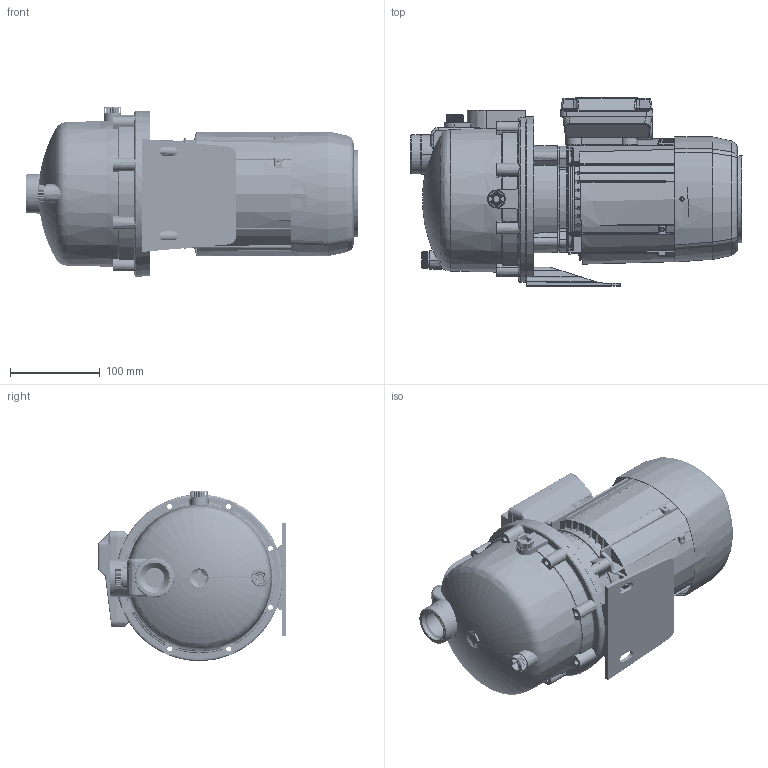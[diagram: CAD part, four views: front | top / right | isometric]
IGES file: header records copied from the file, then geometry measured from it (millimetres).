
Start section:  PTC IGES file: multipool_n.igs
Global section: file name: multipool_n.igs; native system: Pro/ENGINEER by Parametric Technology Corporation; preprocessor: 2008150; author: usuari; organization: Unknown; date: 20151126.121524; units: millimetre
Bounding box: 370.5 x 210 x 189.96 mm (x, y, z)
Surface area: 527109 mm2 (no closed solid volume)
Topology: 0 solids, 0 shells, 4444 faces, 25066 edges, 25060 vertices
Faces by surface type: bspline 2567, revolution 1877
